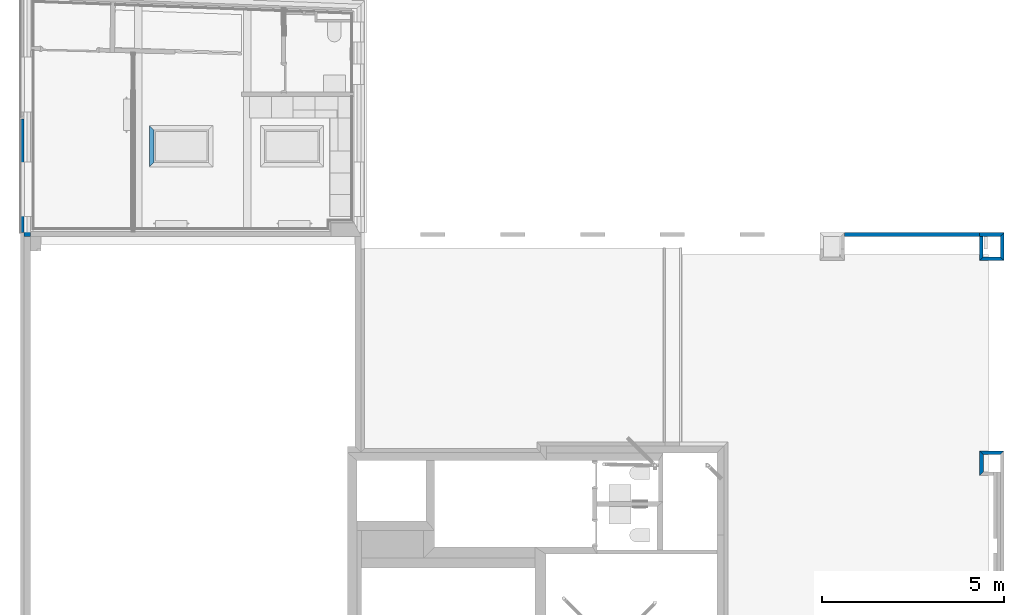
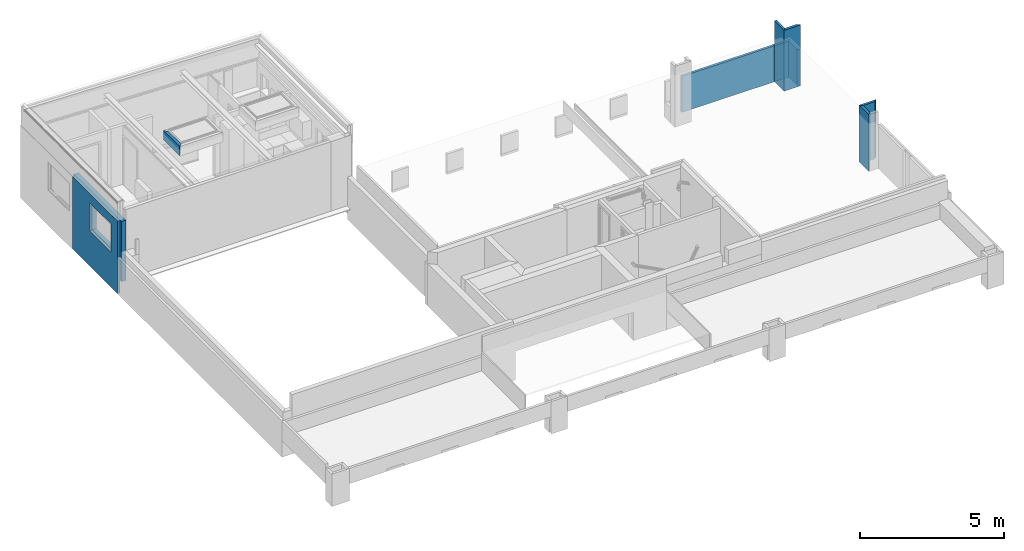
# One storey, part 4 of 23: 10 walls, 2 openings.
"""IFC2X3 building model written with IfcOpenShell, lengths in metres."""

from ifc_helpers import new_model, entity, si_unit, converted_unit, derived_unit, money_unit, direction, frame, frame_2d, origin_with_axes, place, context, subcontext, project, spatial, polyline, rectangle, outline, extrude, faceted_brep, material, layer, layer_set, layer_usage, type_object, element, save


model = new_model("IFC2X3")

# Units and contexts
model_context = context("Model", 3, precision=1e-05, world=origin_with_axes(), true_north=direction((0.0, 1.0)))
body_context = subcontext(model_context, "Body", "Model", "MODEL_VIEW", scale=1.0)
ifc_project = project(units=[si_unit("LENGTHUNIT", "METRE"), si_unit("AREAUNIT", "SQUARE_METRE"), si_unit("VOLUMEUNIT", "CUBIC_METRE"), si_unit("ABSORBEDDOSEUNIT", "GRAY"), si_unit("AMOUNTOFSUBSTANCEUNIT", "MOLE"), si_unit("DOSEEQUIVALENTUNIT", "SIEVERT"), si_unit("ELECTRICCAPACITANCEUNIT", "FARAD"), si_unit("ELECTRICCHARGEUNIT", "COULOMB"), si_unit("ELECTRICCONDUCTANCEUNIT", "SIEMENS"), si_unit("ELECTRICCURRENTUNIT", "AMPERE"), si_unit("ELECTRICRESISTANCEUNIT", "OHM"), si_unit("ELECTRICVOLTAGEUNIT", "VOLT"), si_unit("ENERGYUNIT", "JOULE"), si_unit("FORCEUNIT", "NEWTON"), si_unit("FREQUENCYUNIT", "HERTZ"), si_unit("ILLUMINANCEUNIT", "LUX"), si_unit("INDUCTANCEUNIT", "HENRY"), si_unit("LUMINOUSFLUXUNIT", "LUMEN"), si_unit("LUMINOUSINTENSITYUNIT", "CANDELA"), si_unit("MAGNETICFLUXDENSITYUNIT", "TESLA"), si_unit("MAGNETICFLUXUNIT", "WEBER"), si_unit("MASSUNIT", "GRAM"), converted_unit("PLANEANGLEUNIT", "degree", entity("IfcReal", 0.0174532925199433), si_unit("PLANEANGLEUNIT", "RADIAN"), dimensions=[0, 0, 0, 0, 0, 0, 0]), si_unit("POWERUNIT", "WATT"), si_unit("PRESSUREUNIT", "PASCAL"), si_unit("RADIOACTIVITYUNIT", "BECQUEREL"), si_unit("SOLIDANGLEUNIT", "STERADIAN"), si_unit("THERMODYNAMICTEMPERATUREUNIT", "KELVIN"), si_unit("TIMEUNIT", "SECOND"), derived_unit("ACCELERATIONUNIT", [(si_unit("LENGTHUNIT", "METRE"), 1), (si_unit("TIMEUNIT", "SECOND"), -2)]), derived_unit("ANGULARVELOCITYUNIT", [(converted_unit("PLANEANGLEUNIT", "degree", entity("IfcReal", 0.0174532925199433), si_unit("PLANEANGLEUNIT", "RADIAN"), dimensions=[0, 0, 0, 0, 0, 0, 0]), 1), (si_unit("TIMEUNIT", "SECOND"), -1)]), derived_unit("CURVATUREUNIT", [(converted_unit("PLANEANGLEUNIT", "degree", entity("IfcReal", 0.0174532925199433), si_unit("PLANEANGLEUNIT", "RADIAN"), dimensions=[0, 0, 0, 0, 0, 0, 0]), 1), (si_unit("LENGTHUNIT", "METRE"), -1)]), derived_unit("DYNAMICVISCOSITYUNIT", [(si_unit("PRESSUREUNIT", "PASCAL"), 1), (si_unit("TIMEUNIT", "SECOND"), 1)]), derived_unit("HEATFLUXDENSITYUNIT", [(si_unit("POWERUNIT", "WATT"), 1), (si_unit("LENGTHUNIT", "METRE"), -2)]), derived_unit("HEATINGVALUEUNIT", [(si_unit("ENERGYUNIT", "JOULE"), 1), (si_unit("MASSUNIT", "GRAM"), -1)]), derived_unit("INTEGERCOUNTRATEUNIT", [(si_unit("TIMEUNIT", "SECOND"), -1)]), derived_unit("IONCONCENTRATIONUNIT", [(si_unit("MASSUNIT", "GRAM"), 1), (si_unit("VOLUMEUNIT", "CUBIC_METRE"), -1)]), derived_unit("ISOTHERMALMOISTURECAPACITYUNIT", [(si_unit("VOLUMEUNIT", "CUBIC_METRE"), 1), (si_unit("MASSUNIT", "GRAM"), -1)]), derived_unit("KINEMATICVISCOSITYUNIT", [(si_unit("AREAUNIT", "SQUARE_METRE"), 1), (si_unit("TIMEUNIT", "SECOND"), -1)]), derived_unit("LINEARFORCEUNIT", [(si_unit("FORCEUNIT", "NEWTON"), 1), (si_unit("LENGTHUNIT", "METRE"), -1)]), derived_unit("LINEARMOMENTUNIT", [(si_unit("FORCEUNIT", "NEWTON"), 1), (si_unit("LENGTHUNIT", "METRE"), -1)]), derived_unit("LINEARSTIFFNESSUNIT", [(si_unit("FORCEUNIT", "NEWTON"), 1), (si_unit("LENGTHUNIT", "METRE"), -1)]), derived_unit("LINEARVELOCITYUNIT", [(si_unit("LENGTHUNIT", "METRE"), 1), (si_unit("TIMEUNIT", "SECOND"), -1)]), derived_unit("LUMINOUSINTENSITYDISTRIBUTIONUNIT", [(si_unit("LUMINOUSINTENSITYUNIT", "CANDELA"), 1), (si_unit("LUMINOUSFLUXUNIT", "LUMEN"), -1)]), derived_unit("MASSDENSITYUNIT", [(si_unit("MASSUNIT", "GRAM"), 1), (si_unit("VOLUMEUNIT", "CUBIC_METRE"), -1)]), derived_unit("MASSFLOWRATEUNIT", [(si_unit("MASSUNIT", "GRAM"), 1), (si_unit("TIMEUNIT", "SECOND"), -1)]), derived_unit("MASSPERLENGTHUNIT", [(si_unit("MASSUNIT", "GRAM"), 1), (si_unit("LENGTHUNIT", "METRE"), -1)]), derived_unit("MODULUSOFELASTICITYUNIT", [(si_unit("FORCEUNIT", "NEWTON"), 1), (si_unit("AREAUNIT", "SQUARE_METRE"), -1)]), derived_unit("MODULUSOFLINEARSUBGRADEREACTIONUNIT", [(si_unit("FORCEUNIT", "NEWTON"), 1), (si_unit("LENGTHUNIT", "METRE"), -2)]), derived_unit("MODULUSOFROTATIONALSUBGRADEREACTIONUNIT", [(si_unit("FORCEUNIT", "NEWTON"), 1), (si_unit("LENGTHUNIT", "METRE"), 1)]), derived_unit("MODULUSOFSUBGRADEREACTIONUNIT", [(si_unit("FORCEUNIT", "NEWTON"), 1), (si_unit("VOLUMEUNIT", "CUBIC_METRE"), -1)]), derived_unit("MOISTUREDIFFUSIVITYUNIT", [(si_unit("VOLUMEUNIT", "CUBIC_METRE"), 1), (si_unit("TIMEUNIT", "SECOND"), -1)]), derived_unit("MOLECULARWEIGHTUNIT", [(si_unit("MASSUNIT", "GRAM"), 1), (si_unit("AMOUNTOFSUBSTANCEUNIT", "MOLE"), -1)]), derived_unit("PLANARFORCEUNIT", [(si_unit("FORCEUNIT", "NEWTON"), 1), (si_unit("LENGTHUNIT", "METRE"), -2)]), derived_unit("ROTATIONALFREQUENCYUNIT", [(si_unit("TIMEUNIT", "SECOND"), -1)]), derived_unit("ROTATIONALMASSUNIT", [(si_unit("MASSUNIT", "GRAM"), 1), (si_unit("LENGTHUNIT", "METRE"), 2)]), derived_unit("ROTATIONALSTIFFNESSUNIT", [(si_unit("FORCEUNIT", "NEWTON"), 1), (si_unit("LENGTHUNIT", "METRE"), 1), (converted_unit("PLANEANGLEUNIT", "degree", entity("IfcReal", 0.0174532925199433), si_unit("PLANEANGLEUNIT", "RADIAN"), dimensions=[0, 0, 0, 0, 0, 0, 0]), -1)]), derived_unit("SECTIONAREAINTEGRALUNIT", [(si_unit("LENGTHUNIT", "METRE"), 5)]), derived_unit("SECTIONMODULUSUNIT", [(si_unit("LENGTHUNIT", "METRE"), 3)]), derived_unit("SHEARMODULUSUNIT", [(si_unit("FORCEUNIT", "NEWTON"), 1), (si_unit("AREAUNIT", "SQUARE_METRE"), -1)]), derived_unit("SOUNDPOWERUNIT", [(si_unit("ENERGYUNIT", "JOULE"), 1), (si_unit("TIMEUNIT", "SECOND"), -1)]), derived_unit("SPECIFICHEATCAPACITYUNIT", [(si_unit("FORCEUNIT", "NEWTON"), 1), (si_unit("MASSUNIT", "GRAM"), -1), (si_unit("THERMODYNAMICTEMPERATUREUNIT", "KELVIN"), -1)]), derived_unit("TEMPERATUREGRADIENTUNIT", [(si_unit("THERMODYNAMICTEMPERATUREUNIT", "KELVIN"), 1), (si_unit("LENGTHUNIT", "METRE"), -1)]), derived_unit("THERMALADMITTANCEUNIT", [(si_unit("POWERUNIT", "WATT"), 1), (si_unit("AREAUNIT", "SQUARE_METRE"), -1), (si_unit("THERMODYNAMICTEMPERATUREUNIT", "KELVIN"), -1)]), derived_unit("THERMALCONDUCTANCEUNIT", [(si_unit("POWERUNIT", "WATT"), 1), (si_unit("LENGTHUNIT", "METRE"), -1), (si_unit("THERMODYNAMICTEMPERATUREUNIT", "KELVIN"), -1)]), derived_unit("THERMALEXPANSIONCOEFFICIENTUNIT", [(si_unit("THERMODYNAMICTEMPERATUREUNIT", "KELVIN"), -1)]), derived_unit("THERMALRESISTANCEUNIT", [(si_unit("AREAUNIT", "SQUARE_METRE"), 1), (si_unit("POWERUNIT", "WATT"), -1)]), derived_unit("THERMALTRANSMITTANCEUNIT", [(si_unit("POWERUNIT", "WATT"), 1), (si_unit("AREAUNIT", "SQUARE_METRE"), -1), (si_unit("THERMODYNAMICTEMPERATUREUNIT", "KELVIN"), -1)]), derived_unit("TORQUEUNIT", [(si_unit("FORCEUNIT", "NEWTON"), 1), (si_unit("LENGTHUNIT", "METRE"), 1)]), derived_unit("VAPORPERMEABILITYUNIT", [(si_unit("MASSUNIT", "GRAM"), 1), (si_unit("TIMEUNIT", "SECOND"), -1)]), derived_unit("VOLUMETRICFLOWRATEUNIT", [(si_unit("VOLUMEUNIT", "CUBIC_METRE"), 1), (si_unit("TIMEUNIT", "SECOND"), -1)]), derived_unit("WARPINGCONSTANTUNIT", [(si_unit("LENGTHUNIT", "METRE"), 6)]), derived_unit("WARPINGMOMENTUNIT", [(si_unit("FORCEUNIT", "NEWTON"), 1), (si_unit("LENGTHUNIT", "METRE"), 2)]), money_unit("GBP")], contexts=[model_context])

# Site, building, storey
site_placement = place(None, origin_with_axes())
site = spatial("IfcSite", under=ifc_project, at=site_placement, Name="Site", CompositionType="ELEMENT")
building_placement = place(site_placement, origin_with_axes())
building = spatial("IfcBuilding", under=site, at=building_placement, Name="Building01", CompositionType="ELEMENT")
storey_placement = place(building_placement, frame((0.0, 0.0, 2.6), z_axis=(0.0, 0.0, 1.0), x_axis=(1.0, 0.0, 0.0)))
storey = spatial("IfcBuildingStorey", under=building, at=storey_placement, Name="MF", CompositionType="ELEMENT", Elevation=2.6)

# Walls
ifc_material_1 = material(Name="A_BSUK_WallsExternal_Brick")
ifc_layer_1 = layer(ifc_material_1, 0.1, ventilated=False)
ifc_layer_set_1 = layer_set([ifc_layer_1])
ifc_layer_usage_1 = layer_usage(ifc_layer_set_1, "AXIS2", "POSITIVE", 0.0)
wall_type_1 = type_object("IfcWallType", Name="A-Walls-ExternalBrick", PredefinedType="NOTDEFINED")
wall_1_placement = place(storey_placement, frame((26.314179, 8.909531, 0.0), z_axis=(0.0, 0.0, 1.0), x_axis=(0.0, -1.0, 0.0)))
element("IfcWallStandardCase", 1, at=wall_1_placement, inside=storey, type_object=wall_type_1, material=ifc_layer_usage_1, Name="A-Walls-ExternalBrick", ObjectType="A-Walls-ExternalBrick", context=body_context, shape_type="SweptSolid", body=[
    extrude(outline(polyline([(0.571773, 0.1), (0.1, 0.1), (0.0, 0.0), (0.671773, 0.0), (0.571773, 0.1)])), origin_with_axes(), (0.0, 0.0, 1.0), 2.43),
])
wall_2_placement = place(storey_placement, frame((26.981285, 8.909531, 0.0), z_axis=(0.0, 0.0, 1.0), x_axis=(-1.0, 0.0, 0.0)))
element("IfcWallStandardCase", 2, at=wall_2_placement, inside=storey, type_object=wall_type_1, material=ifc_layer_usage_1, Name="A-Walls-ExternalBrick", ObjectType="A-Walls-ExternalBrick", context=body_context, shape_type="SweptSolid", body=[
    extrude(outline(polyline([(0.567106, 0.1), (0.1, 0.1), (0.0, 0.0), (0.667106, 0.0), (0.567106, 0.1)])), origin_with_axes(), (0.0, 0.0, 1.0), 2.43),
])
wall_3_placement = place(storey_placement, frame((26.981639, 14.134094, -0.16), z_axis=(0.0, 0.0, 1.0), x_axis=(0.0, 1.0, 0.0)))
element("IfcWallStandardCase", 3, at=wall_3_placement, inside=storey, type_object=wall_type_1, material=ifc_layer_usage_1, Name="A-Walls-ExternalBrick", ObjectType="A-Walls-ExternalBrick", context=body_context, shape_type="SweptSolid", body=[
    extrude(outline(polyline([(0.665906, 0.1), (0.100006, 0.1), (0.0, 0.0), (0.765906, 0.0), (0.665906, 0.1)])), origin_with_axes(), (0.0, 0.0, 1.0), 1.53),
])
wall_4_placement = place(storey_placement, frame((26.981639, 14.9, -0.16), z_axis=(0.0, 0.0, 1.0), x_axis=(-1.0, 0.0, 0.0)))
element("IfcWallStandardCase", 4, at=wall_4_placement, inside=storey, type_object=wall_type_1, material=ifc_layer_usage_1, Name="A-Walls-ExternalBrick", ObjectType="A-Walls-ExternalBrick", context=body_context, shape_type="SweptSolid", body=[
    extrude(outline(polyline([(0.671639, 0.1), (0.1, 0.1), (0.0, 0.0), (0.671639, 0.0), (0.671639, 0.1)])), origin_with_axes(), (0.0, 0.0, 1.0), 1.53),
])
wall_5_placement = place(storey_placement, frame((26.30997, 14.134133, -0.16), z_axis=(0.0, 0.0, 1.0), x_axis=(1.0, -5.782e-05, 0.0)))
element("IfcWallStandardCase", 5, at=wall_5_placement, inside=storey, type_object=wall_type_1, material=ifc_layer_usage_1, Name="A-Walls-ExternalBrick", ObjectType="A-Walls-ExternalBrick", context=body_context, shape_type="SweptSolid", body=[
    extrude(outline(polyline([(0.571663, 0.1), (0.1, 0.1), (0.0, 0.0), (0.671669, 0.0), (0.571663, 0.1)])), origin_with_axes(), (0.0, 0.0, 1.0), 2.59),
])

# Wall, opening
wall_6_placement = place(storey_placement, frame((0.000679, 18.020229, 0.0), z_axis=(0.0, 0.0, 1.0), x_axis=(0.0, -1.0, 0.0)))
wall_6 = element("IfcWallStandardCase", 6, at=wall_6_placement, inside=storey, type_object=wall_type_1, material=ifc_layer_usage_1, Name="A-Walls-ExternalBrick", ObjectType="A-Walls-ExternalBrick", context=body_context, shape_type="SweptSolid", body=[
    extrude(rectangle(XDim=3.120229, YDim=0.1, at=frame_2d((1.560114, 0.05), x_axis=(-1.0, 0.0))), origin_with_axes(), (0.0, 0.0, 1.0), 3.085),
])
opening_1_placement = place(wall_6_placement, frame((1.177439, 0.0, 1.485), z_axis=(0.0, 0.0, 1.0), x_axis=(1.0, 0.0, 0.0)))
element("IfcOpeningElement", 7, at=opening_1_placement, cuts=wall_6, Name="Opening", ObjectType="Opening", context=body_context, shape_type="SweptSolid", body=[
    extrude(rectangle(XDim=1.2, YDim=1.5, at=frame_2d((-0.75, 0.6), x_axis=(0.0, -1.0))), frame((0.0, 0.0, 0.0), z_axis=(0.0, 1.0, 0.0), x_axis=(-1.0, 0.0, 0.0)), (0.0, 0.0, 1.0), 0.1),
])

# Walls
wall_7_placement = place(storey_placement, frame((26.310009, 14.8, -0.16), z_axis=(0.0, 0.0, 1.0), x_axis=(-5.782e-05, -1.0, 0.0)))
element("IfcWallStandardCase", 8, at=wall_7_placement, inside=storey, type_object=wall_type_1, material=ifc_layer_usage_1, Name="A-Walls-ExternalBrick", ObjectType="A-Walls-ExternalBrick", context=body_context, shape_type="SweptSolid", body=[
    extrude(outline(polyline([(0.565867, 0.1), (-6e-06, 0.1), (0.0, 0.0), (0.665867, 0.0), (0.565867, 0.1)])), origin_with_axes(), (0.0, 0.0, 1.0), 2.59),
])
wall_8_placement = place(storey_placement, frame((22.6, 14.797172, -0.16), z_axis=(0.0, 0.0, 1.0), x_axis=(1.0, 0.0, 0.0)))
element("IfcWallStandardCase", 9, at=wall_8_placement, inside=storey, type_object=wall_type_1, material=ifc_layer_usage_1, Name="A-Walls-ExternalBrick", ObjectType="A-Walls-ExternalBrick", context=body_context, shape_type="SweptSolid", body=[
    extrude(outline(polyline([(3.709964, 0.1), (0.0, 0.1), (0.0, 0.0), (3.70997, 0.0), (3.709964, 0.1)])), origin_with_axes(), (0.0, 0.0, 1.0), 1.53),
])

# Wall, opening
ifc_material_2 = material(Name="A_BSUK_WallsExternal_Block")
ifc_layer_2 = layer(ifc_material_2, 0.18, ventilated=False)
ifc_layer_set_2 = layer_set([ifc_layer_2])
ifc_layer_usage_2 = layer_usage(ifc_layer_set_2, "AXIS2", "POSITIVE", 0.0)
wall_type_2 = type_object("IfcWallType", Name="A-Walls-ExternalBlock", PredefinedType="NOTDEFINED")
wall_9_placement = place(storey_placement, frame((0.280772, 14.8, 0.535), z_axis=(0.0, 0.0, 1.0), x_axis=(3.756e-05, 1.0, 0.0)))
wall_9 = element("IfcWallStandardCase", 10, at=wall_9_placement, inside=storey, type_object=wall_type_2, material=ifc_layer_usage_2, Name="A-Walls-ExternalBlock", ObjectType="A-Walls-ExternalBlock", context=body_context, shape_type="SweptSolid", body=[
    extrude(rectangle(XDim=3.320219, YDim=0.18, at=frame_2d((1.66011, 0.09), x_axis=(1.0, 0.0))), origin_with_axes(), (0.0, 0.0, 1.0), 2.55),
])
opening_2_placement = place(wall_9_placement, frame((0.542783, 0.0, 0.95), z_axis=(0.0, 0.0, 1.0), x_axis=(1.0, 0.0, 0.0)))
element("IfcOpeningElement", 11, at=opening_2_placement, cuts=wall_9, Name="Opening", ObjectType="Opening", context=body_context, shape_type="Brep", body=[
    faceted_brep([(7e-06, 0.0, 0.0), (1.500007, 0.0, 0.0), (1.500007, 0.0, 1.2), (7e-06, 0.0, 1.2), (1.5, 0.18, 0.0), (0.0, 0.18, 0.0), (1.5, 0.18, 1.2), (0.0, 0.18, 1.2)], [[[0, 1, 2, 3]], [[4, 1, 0, 5]], [[6, 2, 1, 4]], [[7, 3, 2, 6]], [[5, 0, 3, 7]], [[4, 5, 7, 6]]]),
])

# Wall
ifc_layer_3 = layer(ifc_material_2, 0.12, ventilated=False)
ifc_layer_set_3 = layer_set([ifc_layer_3])
ifc_layer_usage_3 = layer_usage(ifc_layer_set_3, "AXIS2", "POSITIVE", 0.0)
wall_10_placement = place(storey_placement, frame((3.657414, 16.82, 3.51), z_axis=(0.0, 0.0, 1.0), x_axis=(0.0, 1.0, 0.0)))
element("IfcWallStandardCase", 12, at=wall_10_placement, inside=storey, type_object=wall_type_2, material=ifc_layer_usage_3, Name="A-Walls-ExternalBlock", ObjectType="A-Walls-ExternalBlock", context=body_context, shape_type="SweptSolid", body=[
    extrude(outline(polyline([(1.02, 0.12), (-0.12, 0.12), (0.0, 0.0), (0.9, 0.0), (1.02, 0.12)])), origin_with_axes(), (0.0, 0.0, 1.0), 0.4),
])

save(model, "model.ifc")
